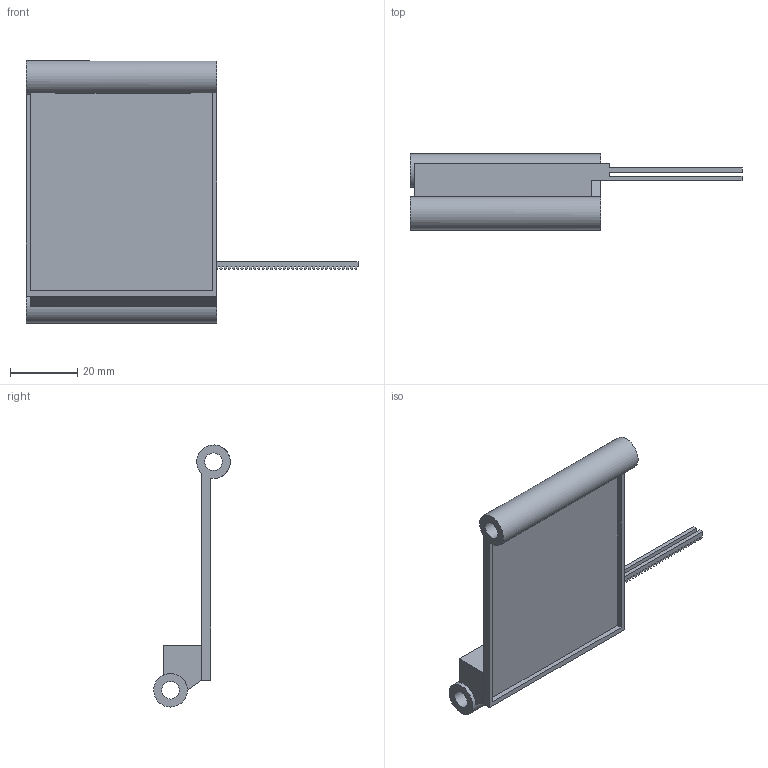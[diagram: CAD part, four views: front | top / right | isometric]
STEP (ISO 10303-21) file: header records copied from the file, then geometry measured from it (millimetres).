
FILE_DESCRIPTION(/* description */ ('STEP AP242 Edition 2','CAx-IF Rec.Pracs.---Representation and Presentation of Product Manufacturing Information (PMI)---4.0---2014-10-13','CAx-IF Rec.Pracs.---3D Tessellated Geometry---0.4---2014-09-14','2;1','CAx-IF Rec.Pracs.---User Defined Attributes---1.5---2016-08-15'),/* implementation_level */ '2;1');
FILE_NAME(/* name */ 'main - Part 18 - left display slider',/* time_stamp */ '2026-11-08T20:03:44Z',/* author */ (''),/* organization */ (''),/* preprocessor_version */ 'ST-DEVELOPER v20',/* originating_system */ 'ONSHAPE BY PTC INC, 1.223',/* authorisation */ ' ');
FILE_SCHEMA (('AP242_MANAGED_MODEL_BASED_3D_ENGINEERING_MIM_LF { 1 0 10303 442 3 1 4 }'));
Length unit declared in the file: metre
Products named in the file (1): Part 18 - left display slider
Bounding box: 98.94 x 22.79 x 78.08 mm (x, y, z)
Volume: 16845.1 mm3; surface area: 15090.1 mm2
Topology: 1 solids, 1 shells, 315 faces, 941 edges, 627 vertices
Faces by surface type: plane 311, cylinder 4
Full cylindrical faces by diameter (mm): 5.25 x2, 10 x1
Entity records: 10369 total; most frequent: CARTESIAN_POINT 1875, ORIENTED_EDGE 1870, DIRECTION 1577, EDGE_CURVE 935, LINE 925, VECTOR 925, VERTEX_POINT 624, AXIS2_PLACEMENT_3D 326
